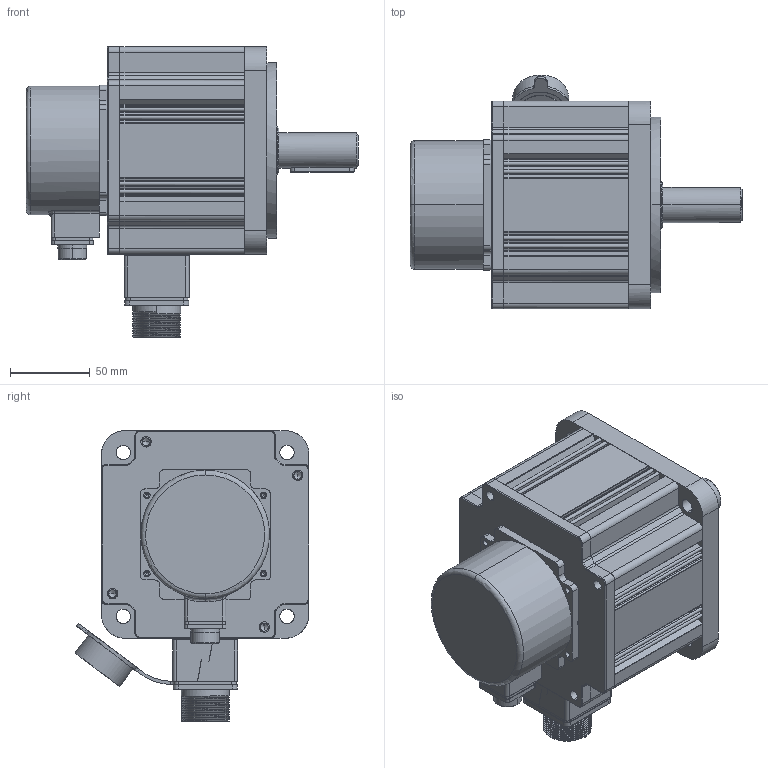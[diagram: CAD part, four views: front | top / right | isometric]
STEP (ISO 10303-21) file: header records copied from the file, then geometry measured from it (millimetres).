
FILE_DESCRIPTION (( 'STEP AP214' ), '1' );
FILE_NAME ('130ÐÍ1KW²»´øÖÆ¶¯ÍâÐÎ³ß´ç.STEP', '2018-08-06T03:10:17', ( '' ), ( '' ), 'SwSTEP 2.0', 'SolidWorks 2015', '' );
FILE_SCHEMA (( 'AUTOMOTIVE_DESIGN' ));
Length unit declared in the file: millimetre
Products named in the file (1): 130型1KW不带制动外形尺寸
Bounding box: 207.9 x 146.5 x 182.01 mm (x, y, z)
Volume: 1482461.4 mm3; surface area: 285369 mm2
Topology: 3 solids, 5 shells, 1292 faces, 3452 edges, 2232 vertices
Faces by surface type: cylinder 652, plane 416, torus 90, cone 73, bspline 61
Entity records: 81013 total; most frequent: CARTESIAN_POINT 36125, ORIENTED_EDGE 6832, DIRECTION 5709, EDGE_CURVE 3416, VERTEX_POINT 2232, AXIS2_PLACEMENT_3D 2129, EDGE_LOOP 1460, LINE 1451
